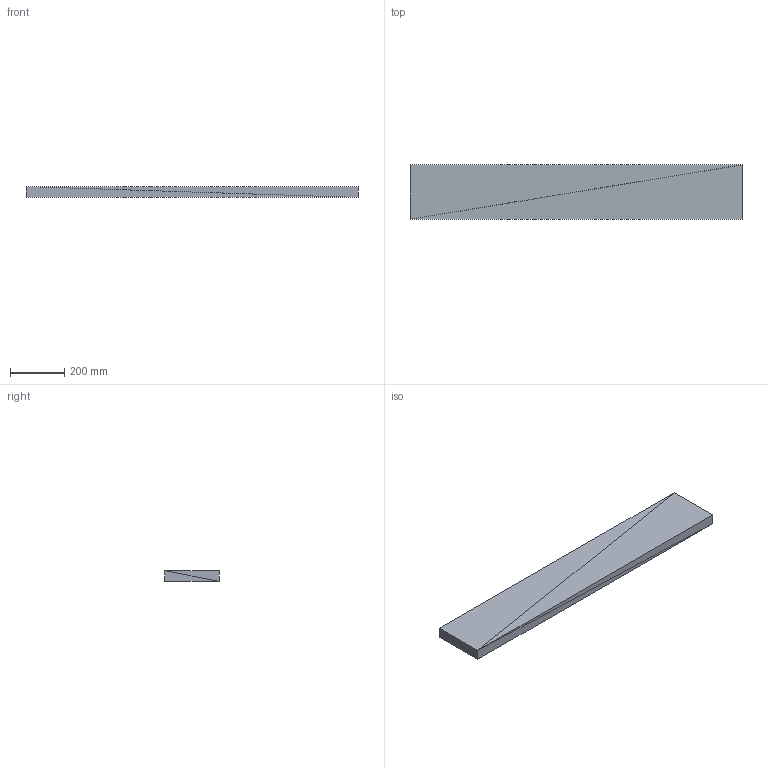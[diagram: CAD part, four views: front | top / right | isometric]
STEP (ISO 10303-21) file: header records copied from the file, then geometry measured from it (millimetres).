
FILE_DESCRIPTION(('ISINAC STEP AP214'),'2;1');
FILE_NAME('ISINAC_R.1220.200_40mm_ADHESIVO','2026-05-03T10:49:19',('ISINAC'),('www.isinac.com'),'ISINAC BIM Generator 1.0','','');
FILE_SCHEMA(('AUTOMOTIVE_DESIGN'));
Length unit declared in the file: millimetre
Products named in the file (1): ISINAC_R.1220.200_40mm_ADHESIVO
Bounding box: 1220 x 200 x 40 mm (x, y, z)
Surface area: 601600 mm2 (no closed solid volume)
Topology: 0 solids, 12 shells, 12 faces, 36 edges, 36 vertices
Faces by surface type: plane 12
Entity records: 145 total; most frequent: CARTESIAN_POINT 48, DIRECTION 24, POLY_LOOP 12, FACE_OUTER_BOUND 12, AXIS2_PLACEMENT_3D 12, PLANE 12, FACE_SURFACE 12, CLOSED_SHELL 1
